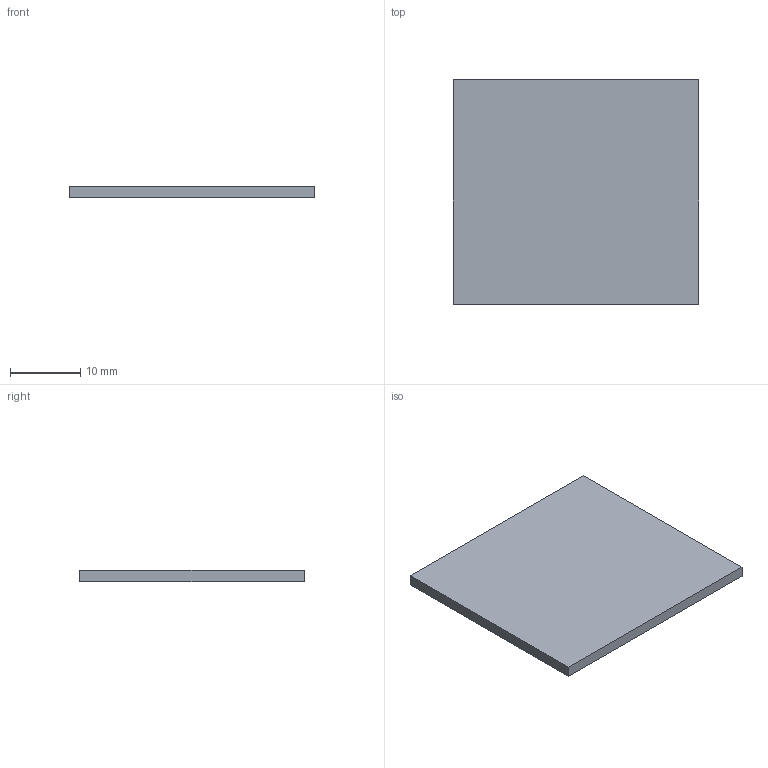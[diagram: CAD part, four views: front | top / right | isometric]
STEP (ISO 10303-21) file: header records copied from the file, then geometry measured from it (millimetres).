
FILE_DESCRIPTION(('Open CASCADE Model'),'2;1');
FILE_NAME('Open CASCADE Shape Model','2026-09-10T23:36:53',('Author'),( 'Open CASCADE'),'Open CASCADE STEP processor 7.9','Open CASCADE 7.9' ,'Unknown');
FILE_SCHEMA(('AUTOMOTIVE_DESIGN { 1 0 10303 214 1 1 1 1 }'));
Length unit declared in the file: millimetre
Products named in the file (1): Open CASCADE STEP translator 7.9 10
Bounding box: 35 x 32 x 1.6 mm (x, y, z)
Volume: 1792 mm3; surface area: 2454.4 mm2
Topology: 1 solids, 1 shells, 6 faces, 12 edges, 8 vertices
Faces by surface type: plane 6
Entity records: 322 total; most frequent: CARTESIAN_POINT 51, DIRECTION 50, LINE 36, VECTOR 36, ORIENTED_EDGE 24, PCURVE 24, DEFINITIONAL_REPRESENTATION 24, EDGE_CURVE 12
